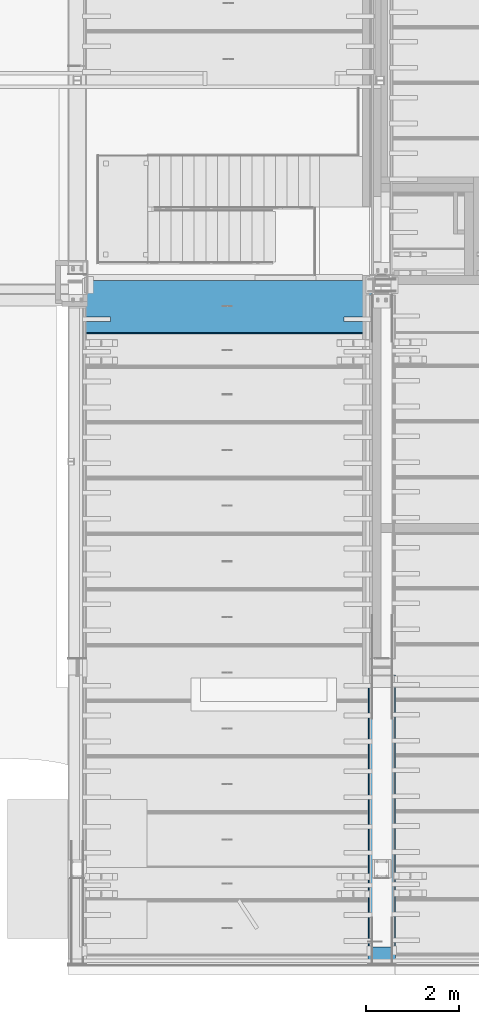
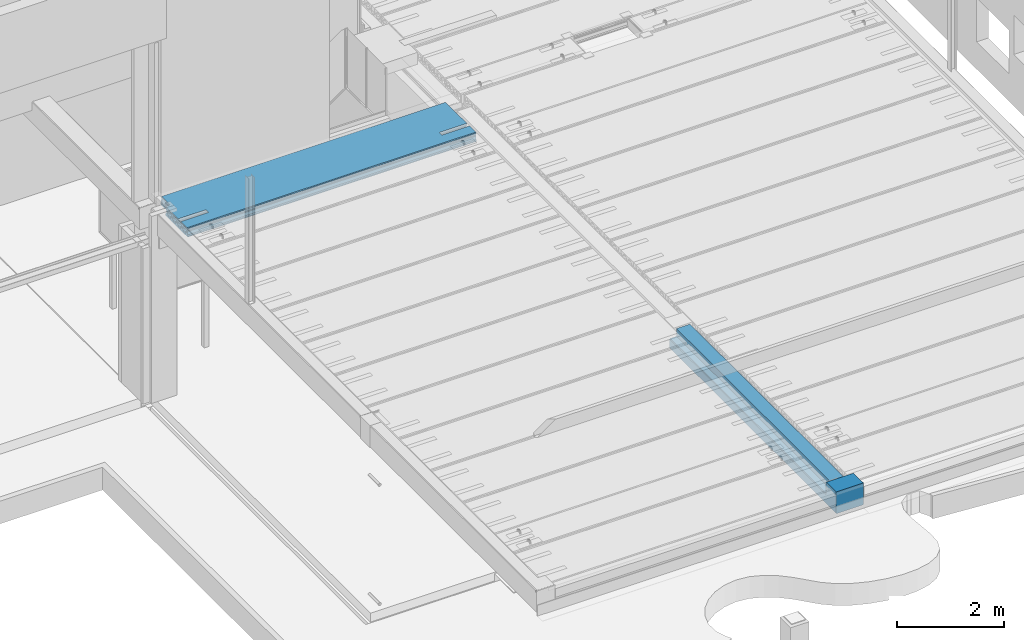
# One storey, part 84 of 230: 2 beams.
"""IFC4X3_ADD2 building model written with IfcOpenShell, lengths in millimetres."""

from ifc_helpers import new_model, si_unit, direction, origin_with_axes, place, context, subcontext, project, spatial, polygons, element, save


model = new_model("IFC4X3_ADD2")

# Units and contexts
model_context = context("Model", 3, precision=1e-05, world=origin_with_axes(), true_north=direction((0.0, 1.0)))
body_context = subcontext(model_context, "Body", "Model", "MODEL_VIEW")
ifc_project = project(units=[si_unit("LENGTHUNIT", "METRE", prefix="MILLI"), si_unit("AREAUNIT", "SQUARE_METRE"), si_unit("VOLUMEUNIT", "CUBIC_METRE"), si_unit("PLANEANGLEUNIT", "RADIAN"), si_unit("TIMEUNIT", "SECOND"), si_unit("MASSUNIT", "GRAM")], contexts=[model_context])

# Site, building, storey
site_placement = place(None, origin_with_axes())
site = spatial("IfcSite", under=ifc_project, at=site_placement, Name="Site", CompositionType="ELEMENT")
building_placement = place(site_placement, origin_with_axes())
building = spatial("IfcBuilding", under=site, at=building_placement, Name="IFC Building Story")
storey_placement = place(building_placement, origin_with_axes())
storey = spatial("IfcBuildingStorey", under=building, at=storey_placement, Name="ETAGE 00 (0)", Elevation=0.0)

# Beams
beam_1_placement = place(storey_placement, origin_with_axes())
element("IfcBeam", 1, at=beam_1_placement, inside=storey, Name="HOLLOWCORE SLAB", ObjectType="EB_SP200", context=body_context, shape_type="Tessellation", body=[
    polygons([(33515.6922247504, -848.999771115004, 3999.9999909), (33515.6922247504, -859.999771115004, 4012.999990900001), (33515.6922247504, -859.999771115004, 4029.9999909), (33515.6922247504, -839.999771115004, 4044.999990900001), (33515.6922247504, -838.5497589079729, 4119.9999909), (33515.6922247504, -831.0171496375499, 4128.676139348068), (33515.6922247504, -828.159841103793, 4139.805000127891), (33515.6922247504, -830.581134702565, 4151.036789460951), (33515.6922247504, -837.7697906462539, 4159.9999909), (33515.6922247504, -837.288474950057, 4185.002769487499), (33515.6922247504, -821.999771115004, 4199.9999909), (33515.6922247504, -589.999771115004, 4199.9999909), (33515.6922247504, -589.999771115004, 4155.806158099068), (33515.6922247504, -594.6792263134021, 4152.679446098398), (33515.6922247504, -610.828796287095, 4128.509906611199), (33515.6922247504, -616.499771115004, 4099.9999909), (33515.6922247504, -610.828796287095, 4071.490075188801), (33515.6922247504, -594.6792263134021, 4047.320535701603), (33515.6922247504, -570.509686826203, 4031.17096572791), (33515.6922247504, -541.999771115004, 4025.499990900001), (33515.6922247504, -513.489855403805, 4031.17096572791), (33515.6922247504, -489.320315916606, 4047.320535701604), (33515.6922247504, -473.170745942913, 4071.490075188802), (33515.6922247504, -467.499771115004, 4099.9999909), (33515.6922247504, -473.170745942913, 4128.5099066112), (33515.6922247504, -489.320315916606, 4152.679446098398), (33515.6922247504, -489.999771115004, 4153.133443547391), (33515.6922247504, -489.999771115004, 4199.9999909), (33515.6922247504, -19.99977111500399, 4199.9999909), (33515.6922247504, -19.99977111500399, 4159.815229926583), (33515.6922247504, -30.67922631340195, 4152.679446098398), (33515.6922247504, -46.828796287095, 4128.509906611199), (33515.6922247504, -52.49977111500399, 4099.9999909), (33515.6922247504, -46.828796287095, 4071.490075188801), (33515.6922247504, -30.67922631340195, 4047.320535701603), (33515.6922247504, -19.99977111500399, 4040.184751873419), (33515.6922247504, -19.99977111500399, 3999.9999909), (33515.6922247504, -113.3203159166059, 4152.679446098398), (33515.6922247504, -137.489855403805, 4168.829016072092), (33515.6922247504, -165.9997711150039, 4174.4999909), (33515.6922247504, -194.509686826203, 4168.829016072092), (33515.6922247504, -218.6792263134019, 4152.679446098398), (33515.6922247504, -234.828796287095, 4128.509906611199), (33515.6922247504, -240.499771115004, 4099.9999909), (33515.6922247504, -234.828796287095, 4071.490075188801), (33515.6922247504, -218.6792263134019, 4047.320535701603), (33515.6922247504, -194.509686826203, 4031.17096572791), (33515.6922247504, -165.9997711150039, 4025.499990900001), (33515.6922247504, -137.489855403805, 4031.17096572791), (33515.6922247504, -113.3203159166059, 4047.320535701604), (33515.6922247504, -97.17074594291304, 4071.490075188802), (33515.6922247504, -91.49977111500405, 4099.9999909), (33515.6922247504, -97.17074594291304, 4128.5099066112), (33515.6922247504, -301.320315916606, 4152.679446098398), (33515.6922247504, -325.489855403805, 4168.829016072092), (33515.6922247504, -353.999771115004, 4174.4999909), (33515.6922247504, -382.5096868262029, 4168.829016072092), (33515.6922247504, -406.679226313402, 4152.679446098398), (33515.6922247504, -422.828796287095, 4128.509906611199), (33515.6922247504, -428.499771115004, 4099.9999909), (33515.6922247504, -422.828796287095, 4071.490075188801), (33515.6922247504, -406.679226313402, 4047.320535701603), (33515.6922247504, -382.5096868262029, 4031.17096572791), (33515.6922247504, -353.999771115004, 4025.499990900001), (33515.6922247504, -325.489855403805, 4031.17096572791), (33515.6922247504, -301.320315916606, 4047.320535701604), (33515.6922247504, -285.170745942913, 4071.490075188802), (33515.6922247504, -279.499771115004, 4099.9999909), (33515.6922247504, -285.170745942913, 4128.5099066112), (33515.6922247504, -677.320315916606, 4152.679446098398), (33515.6922247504, -701.489855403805, 4168.829016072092), (33515.6922247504, -729.999771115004, 4174.4999909), (33515.6922247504, -758.509686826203, 4168.829016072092), (33515.6922247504, -782.6792263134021, 4152.679446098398), (33515.6922247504, -798.8287962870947, 4128.509906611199), (33515.6922247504, -804.499771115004, 4099.9999909), (33515.6922247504, -798.828796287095, 4071.490075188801), (33515.6922247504, -782.679226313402, 4047.320535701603), (33515.6922247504, -758.509686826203, 4031.17096572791), (33515.6922247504, -729.999771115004, 4025.499990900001), (33515.6922247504, -701.489855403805, 4031.17096572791), (33515.6922247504, -677.320315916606, 4047.320535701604), (33515.6922247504, -661.170745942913, 4071.490075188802), (33515.6922247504, -655.499771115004, 4099.9999909), (33515.6922247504, -661.170745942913, 4128.5099066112), (39750.6922247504, 329.0002288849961, 3999.9999909), (39750.6922247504, 340.000228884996, 4012.999990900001), (39750.6922247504, 340.000228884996, 4029.9999909), (39750.6922247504, 320.000228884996, 4044.999990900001), (39750.6922247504, 318.5502166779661, 4119.9999909), (39750.6922247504, 311.017607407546, 4128.676139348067), (39750.6922247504, 308.160298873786, 4139.805000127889), (39750.6922247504, 310.5815924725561, 4151.036789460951), (39750.6922247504, 317.770248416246, 4159.9999909), (39750.6922247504, 317.288932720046, 4185.002769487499), (39750.6922247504, 302.000228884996, 4199.9999909), (39750.6922247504, -489.999771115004, 4199.9999909), (39750.6922247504, -489.999771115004, 4153.133443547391), (39750.6922247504, -489.320315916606, 4152.679446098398), (39750.6922247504, -473.170745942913, 4128.509906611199), (39750.6922247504, -467.499771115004, 4099.9999909), (39750.6922247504, -473.170745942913, 4071.490075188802), (39750.6922247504, -489.320315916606, 4047.320535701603), (39750.6922247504, -513.489855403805, 4031.17096572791), (39750.6922247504, -541.999771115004, 4025.499990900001), (39750.6922247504, -570.509686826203, 4031.17096572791), (39750.6922247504, -594.6792263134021, 4047.320535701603), (39750.6922247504, -610.828796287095, 4071.490075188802), (39750.6922247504, -616.499771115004, 4099.9999909), (39750.6922247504, -610.828796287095, 4128.509906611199), (39750.6922247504, -594.6792263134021, 4152.679446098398), (39750.6922247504, -589.999771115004, 4155.806158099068), (39750.6922247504, -589.999771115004, 4199.9999909), (39750.6922247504, -821.999771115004, 4199.9999909), (39750.6922247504, -837.2884749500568, 4185.002769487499), (39750.6922247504, -837.769790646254, 4159.9999909), (39750.6922247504, -830.581134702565, 4151.036789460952), (39750.6922247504, -828.159841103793, 4139.805000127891), (39750.6922247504, -831.0171496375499, 4128.676139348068), (39750.6922247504, -838.5497589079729, 4119.9999909), (39750.6922247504, -839.999771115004, 4044.999990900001), (39750.6922247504, -859.999771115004, 4029.9999909), (39750.6922247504, -859.999771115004, 4012.999990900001), (39750.6922247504, -848.999771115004, 3999.9999909), (39750.6922247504, 262.679684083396, 4152.679446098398), (39750.6922247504, 278.829254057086, 4128.509906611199), (39750.6922247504, 284.500228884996, 4099.9999909), (39750.6922247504, 278.829254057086, 4071.490075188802), (39750.6922247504, 262.679684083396, 4047.320535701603), (39750.6922247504, 238.5101445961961, 4031.17096572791), (39750.6922247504, 210.000228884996, 4025.499990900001), (39750.6922247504, 181.490313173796, 4031.17096572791), (39750.6922247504, 157.320773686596, 4047.320535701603), (39750.6922247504, 141.171203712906, 4071.490075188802), (39750.6922247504, 135.500228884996, 4099.9999909), (39750.6922247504, 141.171203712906, 4128.509906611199), (39750.6922247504, 157.320773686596, 4152.679446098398), (39750.6922247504, 181.490313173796, 4168.829016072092), (39750.6922247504, 210.000228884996, 4174.4999909), (39750.6922247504, 238.5101445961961, 4168.829016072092), (39750.6922247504, 74.67968408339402, 4152.679446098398), (39750.6922247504, 90.82925405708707, 4128.509906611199), (39750.6922247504, 96.50022888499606, 4099.9999909), (39750.6922247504, 90.82925405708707, 4071.490075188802), (39750.6922247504, 74.67968408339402, 4047.320535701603), (39750.6922247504, 50.51014459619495, 4031.17096572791), (39750.6922247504, 22.00022888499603, 4025.499990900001), (39750.6922247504, -6.509686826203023, 4031.17096572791), (39750.6922247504, -30.67922631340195, 4047.320535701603), (39750.6922247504, -46.828796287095, 4071.490075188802), (39750.6922247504, -52.49977111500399, 4099.9999909), (39750.6922247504, -46.828796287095, 4128.509906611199), (39750.6922247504, -30.67922631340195, 4152.679446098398), (39750.6922247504, -6.509686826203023, 4168.829016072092), (39750.6922247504, 22.00022888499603, 4174.4999909), (39750.6922247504, 50.51014459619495, 4168.829016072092), (39750.6922247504, -113.3203159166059, 4152.679446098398), (39750.6922247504, -97.17074594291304, 4128.509906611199), (39750.6922247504, -91.49977111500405, 4099.9999909), (39750.6922247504, -97.17074594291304, 4071.490075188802), (39750.6922247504, -113.3203159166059, 4047.320535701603), (39750.6922247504, -137.489855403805, 4031.17096572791), (39750.6922247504, -165.9997711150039, 4025.499990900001), (39750.6922247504, -194.509686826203, 4031.17096572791), (39750.6922247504, -218.6792263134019, 4047.320535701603), (39750.6922247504, -234.828796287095, 4071.490075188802), (39750.6922247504, -240.499771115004, 4099.9999909), (39750.6922247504, -234.828796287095, 4128.509906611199), (39750.6922247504, -218.6792263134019, 4152.679446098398), (39750.6922247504, -194.509686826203, 4168.829016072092), (39750.6922247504, -165.9997711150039, 4174.4999909), (39750.6922247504, -137.489855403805, 4168.829016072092), (39750.6922247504, -301.320315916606, 4152.679446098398), (39750.6922247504, -285.170745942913, 4128.509906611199), (39750.6922247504, -279.499771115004, 4099.9999909), (39750.6922247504, -285.170745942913, 4071.490075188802), (39750.6922247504, -301.320315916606, 4047.320535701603), (39750.6922247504, -325.489855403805, 4031.17096572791), (39750.6922247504, -353.999771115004, 4025.499990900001), (39750.6922247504, -382.5096868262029, 4031.17096572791), (39750.6922247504, -406.679226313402, 4047.320535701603), (39750.6922247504, -422.828796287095, 4071.490075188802), (39750.6922247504, -428.499771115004, 4099.9999909), (39750.6922247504, -422.828796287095, 4128.509906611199), (39750.6922247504, -406.679226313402, 4152.679446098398), (39750.6922247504, -382.5096868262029, 4168.829016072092), (39750.6922247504, -353.999771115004, 4174.4999909), (39750.6922247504, -325.489855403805, 4168.829016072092), (39750.6922247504, -677.320315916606, 4152.679446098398), (39750.6922247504, -661.170745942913, 4128.509906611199), (39750.6922247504, -655.499771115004, 4099.9999909), (39750.6922247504, -661.170745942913, 4071.490075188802), (39750.6922247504, -677.320315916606, 4047.320535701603), (39750.6922247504, -701.489855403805, 4031.17096572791), (39750.6922247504, -729.999771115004, 4025.499990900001), (39750.6922247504, -758.509686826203, 4031.17096572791), (39750.6922247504, -782.6792263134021, 4047.320535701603), (39750.6922247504, -798.828796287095, 4071.490075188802), (39750.6922247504, -804.4997711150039, 4099.9999909), (39750.6922247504, -798.828796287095, 4128.509906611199), (39750.6922247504, -782.6792263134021, 4152.679446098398), (39750.6922247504, -758.509686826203, 4168.829016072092), (39750.6922247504, -729.999771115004, 4174.4999909), (39750.6922247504, -701.489855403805, 4168.829016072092), (33615.6922247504, -19.99977111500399, 3999.9999909), (33615.6922247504, 329.0002288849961, 3999.9999909), (39150.69222475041, -589.999771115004, 4199.9999909), (39150.69222475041, -489.999771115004, 4199.9999909), (33615.6922247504, 302.000228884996, 4199.9999909), (33615.6922247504, -19.99977111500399, 4199.9999909), (34115.6922247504, -489.999771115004, 4199.9999909), (34115.6922247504, -589.999771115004, 4199.9999909), (33615.6922247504, 317.288932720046, 4185.002769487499), (33615.6922247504, 317.770248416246, 4159.9999909), (33615.6922247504, 310.5815924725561, 4151.036789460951), (33615.6922247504, 308.160298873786, 4139.805000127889), (33615.6922247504, 311.017607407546, 4128.676139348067), (33615.6922247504, 318.5502166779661, 4119.9999909), (33615.6922247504, 320.000228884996, 4044.9999909), (33615.6922247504, 340.000228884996, 4029.9999909), (33615.6922247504, 340.000228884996, 4012.9999909), (33615.6922247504, 238.5101445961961, 4168.829016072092), (33615.6922247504, 262.679684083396, 4152.679446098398), (33615.6922247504, 210.000228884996, 4174.4999909), (33615.6922247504, 181.490313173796, 4168.829016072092), (33615.6922247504, 157.320773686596, 4152.679446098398), (33615.6922247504, 141.171203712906, 4128.5099066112), (33615.6922247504, 135.500228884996, 4099.9999909), (33615.6922247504, 141.171203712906, 4071.490075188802), (33615.6922247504, 157.320773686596, 4047.320535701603), (33615.6922247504, 181.490313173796, 4031.17096572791), (33615.6922247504, 210.000228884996, 4025.499990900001), (33615.6922247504, 238.5101445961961, 4031.17096572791), (33615.6922247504, 262.679684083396, 4047.320535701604), (33615.6922247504, 278.829254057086, 4071.490075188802), (33615.6922247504, 284.500228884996, 4099.9999909), (33615.6922247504, 278.829254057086, 4128.509906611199), (33615.6922247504, 50.51014459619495, 4168.829016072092), (33615.6922247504, 74.67968408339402, 4152.679446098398), (33615.6922247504, 22.00022888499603, 4174.4999909), (33615.6922247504, -6.509686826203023, 4168.829016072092), (33615.6922247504, -19.99977111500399, 4159.815229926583), (33615.6922247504, -6.509686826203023, 4031.17096572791), (33615.6922247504, -19.99977111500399, 4040.184751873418), (33615.6922247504, 22.00022888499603, 4025.499990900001), (33615.6922247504, 50.51014459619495, 4031.17096572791), (33615.6922247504, 74.67968408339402, 4047.320535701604), (33615.6922247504, 90.82925405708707, 4071.490075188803), (33615.6922247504, 96.50022888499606, 4099.9999909), (33615.6922247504, 90.82925405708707, 4128.509906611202), (39150.69222475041, -489.999771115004, 4153.133443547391), (39150.69222475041, -513.489855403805, 4168.829016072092), (34115.6922247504, -513.489855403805, 4168.829016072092), (34115.6922247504, -489.999771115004, 4153.133443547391), (39150.69222475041, -541.999771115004, 4174.4999909), (34115.6922247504, -541.999771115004, 4174.4999909), (39150.69222475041, -570.509686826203, 4168.829016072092), (34115.6922247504, -570.509686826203, 4168.829016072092), (34115.6922247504, -589.999771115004, 4155.806158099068), (39150.69222475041, -589.999771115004, 4155.806158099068), (39150.69222475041, -489.999771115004, 4199.9999969), (39150.69222475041, -589.999771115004, 4199.9999969), (34115.6922247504, -589.999771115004, 4199.9999969), (34115.6922247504, -489.999771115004, 4199.9999969)], [[[26, 27, 28]], [[57, 58, 25]], [[57, 25, 26]], [[57, 26, 28]], [[28, 56, 57]], [[56, 28, 29]], [[29, 55, 56]], [[29, 54, 55]], [[59, 60, 24]], [[59, 24, 25]], [[25, 58, 59]], [[61, 62, 23]], [[23, 24, 60]], [[23, 60, 61]], [[62, 22, 23]], [[41, 42, 69]], [[41, 69, 54]], [[54, 40, 41]], [[40, 54, 29]], [[29, 39, 40]], [[29, 38, 39]], [[43, 44, 68]], [[43, 68, 69]], [[69, 42, 43]], [[45, 46, 67]], [[67, 68, 44]], [[67, 44, 45]], [[53, 38, 29]], [[53, 29, 30]], [[32, 33, 52]], [[32, 52, 53]], [[53, 31, 32]], [[53, 30, 31]], [[35, 36, 51]], [[51, 34, 35]], [[51, 52, 33]], [[51, 33, 34]], [[36, 37, 50]], [[36, 50, 51]], [[37, 49, 50]], [[37, 48, 49]], [[37, 66, 48]], [[66, 47, 48]], [[66, 67, 46]], [[66, 46, 47]], [[37, 65, 66]], [[37, 64, 65]], [[37, 21, 64]], [[21, 63, 64]], [[21, 22, 62]], [[21, 62, 63]], [[37, 20, 21]], [[37, 1, 20]], [[1, 19, 20]], [[1, 18, 19]], [[8, 9, 10]], [[8, 10, 11]], [[74, 75, 7]], [[74, 7, 8]], [[8, 11, 73]], [[8, 73, 74]], [[11, 72, 73]], [[72, 11, 12]], [[12, 71, 72]], [[12, 70, 71]], [[75, 6, 7]], [[77, 78, 4]], [[4, 5, 76]], [[4, 76, 77]], [[5, 6, 75]], [[5, 75, 76]], [[81, 82, 17]], [[81, 17, 18]], [[18, 80, 81]], [[18, 1, 80]], [[1, 79, 80]], [[1, 4, 78]], [[1, 78, 79]], [[1, 2, 3]], [[1, 3, 4]], [[83, 84, 16]], [[83, 16, 17]], [[17, 82, 83]], [[85, 70, 15]], [[15, 16, 84]], [[15, 84, 85]], [[70, 12, 14]], [[70, 14, 15]], [[12, 13, 14]], [[121, 122, 123]], [[121, 123, 124]], [[93, 94, 95]], [[93, 95, 96]], [[93, 96, 125]], [[125, 126, 92]], [[125, 92, 93]], [[126, 91, 92]], [[128, 129, 89]], [[89, 90, 127]], [[89, 127, 128]], [[90, 91, 126]], [[90, 126, 127]], [[140, 125, 96]], [[96, 139, 140]], [[96, 138, 139]], [[96, 141, 138]], [[141, 137, 138]], [[141, 136, 137]], [[142, 143, 135]], [[142, 135, 136]], [[136, 141, 142]], [[144, 145, 134]], [[134, 135, 143]], [[134, 143, 144]], [[145, 146, 133]], [[145, 133, 134]], [[146, 132, 133]], [[152, 153, 157]], [[158, 159, 151]], [[158, 151, 152]], [[152, 157, 158]], [[160, 161, 150]], [[150, 151, 159]], [[150, 159, 160]], [[161, 149, 150]], [[168, 169, 173]], [[174, 175, 167]], [[174, 167, 168]], [[168, 173, 174]], [[176, 177, 166]], [[166, 167, 175]], [[166, 175, 176]], [[177, 165, 166]], [[156, 141, 96]], [[96, 155, 156]], [[96, 172, 155]], [[172, 154, 155]], [[172, 157, 153]], [[172, 153, 154]], [[96, 171, 172]], [[96, 188, 171]], [[188, 170, 171]], [[188, 173, 169]], [[188, 169, 170]], [[96, 187, 188]], [[96, 97, 187]], [[97, 186, 187]], [[97, 185, 186]], [[97, 98, 184]], [[97, 184, 185]], [[100, 101, 183]], [[100, 183, 184]], [[184, 99, 100]], [[184, 98, 99]], [[102, 103, 182]], [[182, 183, 101]], [[182, 101, 102]], [[103, 181, 182]], [[111, 112, 113]], [[113, 189, 110]], [[113, 110, 111]], [[190, 191, 109]], [[190, 109, 110]], [[110, 189, 190]], [[192, 193, 108]], [[108, 109, 191]], [[108, 191, 192]], [[199, 200, 119]], [[199, 119, 120]], [[120, 121, 198]], [[120, 198, 199]], [[121, 124, 197]], [[121, 197, 198]], [[124, 196, 197]], [[124, 195, 196]], [[124, 194, 195]], [[124, 107, 194]], [[107, 108, 193]], [[107, 193, 194]], [[124, 106, 107]], [[124, 105, 106]], [[124, 180, 105]], [[180, 104, 105]], [[180, 181, 103]], [[180, 103, 104]], [[124, 179, 180]], [[124, 164, 179]], [[164, 178, 179]], [[164, 165, 177]], [[164, 177, 178]], [[124, 163, 164]], [[124, 148, 163]], [[148, 162, 163]], [[148, 149, 161]], [[148, 161, 162]], [[124, 147, 148]], [[124, 131, 147]], [[131, 132, 146]], [[131, 146, 147]], [[124, 86, 131]], [[86, 130, 131]], [[86, 89, 129]], [[86, 129, 130]], [[86, 87, 88]], [[86, 88, 89]], [[200, 118, 119]], [[204, 189, 113]], [[113, 203, 204]], [[113, 114, 203]], [[114, 202, 203]], [[114, 117, 201]], [[114, 201, 202]], [[117, 118, 200]], [[117, 200, 201]], [[114, 115, 116]], [[114, 116, 117]], [[205, 206, 86]], [[86, 124, 1]], [[86, 1, 205]], [[1, 37, 205]], [[2, 1, 124, 123]], [[3, 2, 123, 122]], [[4, 3, 122, 121]], [[5, 4, 121, 120]], [[6, 5, 120, 119]], [[7, 6, 119, 118]], [[8, 7, 118, 117]], [[9, 8, 117, 116]], [[10, 9, 116, 115]], [[11, 10, 115, 114]], [[208, 97, 96]], [[208, 96, 209]], [[209, 207, 208]], [[210, 29, 28]], [[212, 12, 11]], [[212, 11, 114]], [[114, 211, 212]], [[114, 207, 209]], [[114, 209, 211]], [[210, 28, 211]], [[211, 209, 210]], [[114, 113, 207]], [[96, 95, 213, 209]], [[95, 94, 214, 213]], [[94, 93, 215, 214]], [[93, 92, 216, 215]], [[92, 91, 217, 216]], [[91, 90, 218, 217]], [[90, 89, 219, 218]], [[89, 88, 220, 219]], [[88, 87, 221, 220]], [[87, 86, 206, 221]], [[125, 140, 222, 223]], [[140, 139, 224, 222]], [[139, 138, 225, 224]], [[138, 137, 226, 225]], [[137, 136, 227, 226]], [[136, 135, 228, 227]], [[135, 134, 229, 228]], [[134, 133, 230, 229]], [[133, 132, 231, 230]], [[132, 131, 232, 231]], [[131, 130, 233, 232]], [[130, 129, 234, 233]], [[129, 128, 235, 234]], [[128, 127, 236, 235]], [[127, 126, 237, 236]], [[126, 125, 223, 237]], [[141, 156, 238, 239]], [[156, 155, 240, 238]], [[155, 154, 241, 240]], [[242, 241, 154]], [[242, 154, 153]], [[153, 31, 242]], [[31, 30, 242]], [[32, 31, 153, 152]], [[33, 32, 152, 151]], [[34, 33, 151, 150]], [[35, 34, 150, 149]], [[244, 36, 35]], [[244, 35, 149]], [[149, 148, 243]], [[149, 243, 244]], [[148, 147, 245, 243]], [[147, 146, 246, 245]], [[146, 145, 247, 246]], [[145, 144, 248, 247]], [[144, 143, 249, 248]], [[143, 142, 250, 249]], [[142, 141, 239, 250]], [[39, 38, 157, 172]], [[40, 39, 172, 171]], [[41, 40, 171, 170]], [[42, 41, 170, 169]], [[43, 42, 169, 168]], [[44, 43, 168, 167]], [[45, 44, 167, 166]], [[46, 45, 166, 165]], [[47, 46, 165, 164]], [[48, 47, 164, 163]], [[49, 48, 163, 162]], [[50, 49, 162, 161]], [[51, 50, 161, 160]], [[52, 51, 160, 159]], [[53, 52, 159, 158]], [[38, 53, 158, 157]], [[55, 54, 173, 188]], [[56, 55, 188, 187]], [[57, 56, 187, 186]], [[58, 57, 186, 185]], [[59, 58, 185, 184]], [[60, 59, 184, 183]], [[61, 60, 183, 182]], [[62, 61, 182, 181]], [[63, 62, 181, 180]], [[64, 63, 180, 179]], [[65, 64, 179, 178]], [[66, 65, 178, 177]], [[67, 66, 177, 176]], [[68, 67, 176, 175]], [[69, 68, 175, 174]], [[54, 69, 174, 173]], [[254, 27, 26]], [[254, 26, 251]], [[251, 252, 253]], [[251, 253, 254]], [[26, 99, 251]], [[99, 98, 251]], [[253, 252, 255, 256]], [[256, 255, 257, 258]], [[260, 112, 111]], [[260, 111, 259]], [[259, 258, 257]], [[259, 257, 260]], [[111, 14, 259]], [[14, 13, 259]], [[15, 14, 111, 110]], [[16, 15, 110, 109]], [[17, 16, 109, 108]], [[18, 17, 108, 107]], [[19, 18, 107, 106]], [[20, 19, 106, 105]], [[21, 20, 105, 104]], [[22, 21, 104, 103]], [[23, 22, 103, 102]], [[24, 23, 102, 101]], [[25, 24, 101, 100]], [[26, 25, 100, 99]], [[71, 70, 189, 204]], [[72, 71, 204, 203]], [[73, 72, 203, 202]], [[74, 73, 202, 201]], [[75, 74, 201, 200]], [[76, 75, 200, 199]], [[77, 76, 199, 198]], [[78, 77, 198, 197]], [[79, 78, 197, 196]], [[80, 79, 196, 195]], [[81, 80, 195, 194]], [[82, 81, 194, 193]], [[83, 82, 193, 192]], [[84, 83, 192, 191]], [[85, 84, 191, 190]], [[70, 85, 190, 189]], [[113, 112, 260, 207]], [[98, 97, 261, 251]], [[252, 251, 208]], [[208, 262, 255]], [[208, 255, 252]], [[262, 257, 255]], [[262, 260, 257]], [[28, 27, 254, 211]], [[13, 12, 263, 259]], [[258, 259, 212]], [[212, 256, 258]], [[212, 264, 253]], [[212, 253, 256]], [[264, 254, 253]], [[244, 205, 37, 36]], [[223, 222, 224]], [[223, 224, 225]], [[223, 225, 226]], [[223, 226, 227]], [[223, 227, 228]], [[223, 228, 229]], [[223, 229, 230]], [[223, 230, 231]], [[223, 231, 232]], [[223, 232, 233]], [[223, 233, 234]], [[223, 234, 235]], [[223, 235, 236]], [[223, 236, 237]], [[210, 242, 30, 29]]]),
])
beam_2_placement = place(storey_placement, origin_with_axes())
element("IfcBeam", 2, at=beam_2_placement, inside=storey, Name="BEAM", ObjectType="EB_RT_A400*590*225*150*225*150*15", context=body_context, shape_type="Tessellation", body=[
    polygons([(39671.189, -14070.0, 4270.0), (40261.189, -14070.0, 4270.0), (40261.189, -14070.0, 3980.0), (40246.189, -14070.0, 3995.0), (40111.189, -14070.0, 3995.0), (40111.189, -14070.0, 4170.0), (39821.189, -14070.0, 4170.0), (39821.189, -14070.0, 3995.0), (39686.189, -14070.0, 3995.0), (39671.189, -14070.0, 3980.0), (40261.189, -8210.0, 3785.000000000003), (40261.189, -14440.0, 3785.000000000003), (40246.189, -14440.0, 3770.0), (40246.189, -8210.0, 3770.0), (39686.189, -14440.0, 3770.0), (39686.189, -8210.0, 3770.0), (39671.189, -14440.0, 3785.000000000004), (39671.189, -8210.0, 3785.000000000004), (39671.189, -8210.0, 3980.0), (39686.189, -8210.0, 3995.0), (39821.189, -8210.0, 3995.0), (39821.189, -8210.0, 4170.0), (40111.189, -8210.0, 4170.0), (40111.189, -8210.0, 3995.0), (40246.189, -8210.0, 3995.0), (40261.189, -8210.0, 3980.0), (40261.189, -14070.0, 3880.0), (40261.189, -14440.0, 3880.0), (40261.189, -14440.0, 4270.0), (39671.189, -14440.0, 4270.0), (39671.189, -14440.0, 3880.0), (39671.189, -14070.0, 3880.0)], [[[9, 10, 1]], [[1, 7, 8]], [[1, 8, 9]], [[1, 2, 6]], [[1, 6, 7]], [[2, 4, 5]], [[2, 5, 6]], [[2, 3, 4]], [[11, 12, 13, 14]], [[14, 13, 15, 16]], [[16, 15, 17, 18]], [[21, 22, 23]], [[21, 23, 24]], [[24, 25, 26]], [[24, 26, 11]], [[24, 11, 14]], [[14, 16, 21]], [[14, 21, 24]], [[16, 18, 19]], [[16, 19, 20]], [[16, 20, 21]], [[5, 4, 25, 24]], [[4, 3, 26, 25]], [[27, 28, 12]], [[27, 12, 11]], [[11, 26, 3]], [[11, 3, 27]], [[3, 2, 29]], [[3, 29, 28]], [[28, 27, 3]], [[31, 17, 15]], [[31, 15, 13]], [[31, 13, 12]], [[31, 12, 28]], [[28, 29, 30]], [[28, 30, 31]], [[10, 32, 31]], [[31, 30, 1]], [[31, 1, 10]], [[32, 10, 19]], [[32, 19, 18]], [[18, 17, 32]], [[17, 31, 32]], [[10, 9, 20, 19]], [[9, 8, 21, 20]], [[8, 7, 22, 21]], [[7, 6, 23, 22]], [[6, 5, 24, 23]], [[29, 2, 1, 30]]]),
])

save(model, "model.ifc")
